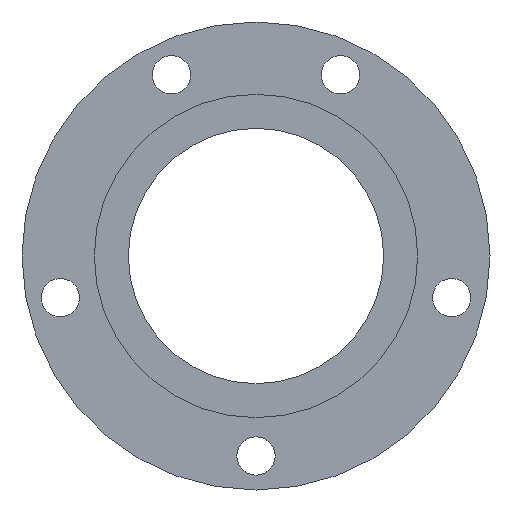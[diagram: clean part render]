
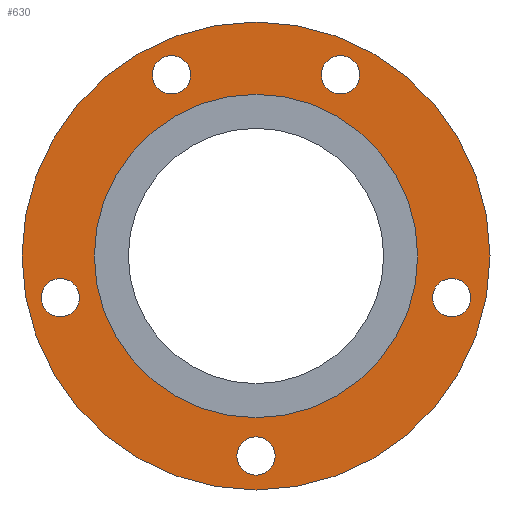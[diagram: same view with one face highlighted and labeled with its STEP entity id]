
A CAD part, left-side view. The second image highlights one B-rep face of the part: STEP entity #630.
In plain terms, the highlighted planar face has unit normal (-1, 0, 0).
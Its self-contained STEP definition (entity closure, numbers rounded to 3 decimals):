
#344=CARTESIAN_POINT('',(-14.,0.0,-55.));
#345=VERTEX_POINT('',#344);
#346=CARTESIAN_POINT('',(-14.,0.0,0.0));
#347=DIRECTION('',(1.0,0.0,0.0));
#348=DIRECTION('',(0.0,0.0,-1.0));
#349=AXIS2_PLACEMENT_3D('',#346,#347,#348);
#350=CIRCLE('',#349,55.);
#351=EDGE_CURVE('',#345,#345,#350,.T.);
#385=CARTESIAN_POINT('',(-14.,-45.973,-5.272));
#386=VERTEX_POINT('',#385);
#387=CARTESIAN_POINT('',(-14.,-45.973,-9.772));
#388=DIRECTION('',(1.0,0.0,0.0));
#389=DIRECTION('',(0.0,0.0,-1.0));
#390=AXIS2_PLACEMENT_3D('',#387,#388,#389);
#391=CIRCLE('',#390,4.5);
#392=EDGE_CURVE('',#386,#386,#391,.T.);
#426=CARTESIAN_POINT('',(-14.,0.,-42.5));
#427=VERTEX_POINT('',#426);
#428=CARTESIAN_POINT('',(-14.,0.0,-47.0));
#429=DIRECTION('',(1.0,0.0,0.0));
#430=DIRECTION('',(0.0,0.0,-1.0));
#431=AXIS2_PLACEMENT_3D('',#428,#429,#430);
#432=CIRCLE('',#431,4.5);
#433=EDGE_CURVE('',#427,#427,#432,.T.);
#467=CARTESIAN_POINT('',(-14.,45.973,-5.272));
#468=VERTEX_POINT('',#467);
#469=CARTESIAN_POINT('',(-14.,45.973,-9.772));
#470=DIRECTION('',(1.0,0.0,0.0));
#471=DIRECTION('',(0.0,0.0,-1.0));
#472=AXIS2_PLACEMENT_3D('',#469,#470,#471);
#473=CIRCLE('',#472,4.5);
#474=EDGE_CURVE('',#468,#468,#473,.T.);
#508=CARTESIAN_POINT('',(-14.,19.863,47.096));
#509=VERTEX_POINT('',#508);
#510=CARTESIAN_POINT('',(-14.,19.863,42.596));
#511=DIRECTION('',(1.0,0.0,0.0));
#512=DIRECTION('',(0.0,0.0,-1.0));
#513=AXIS2_PLACEMENT_3D('',#510,#511,#512);
#514=CIRCLE('',#513,4.5);
#515=EDGE_CURVE('',#509,#509,#514,.T.);
#549=CARTESIAN_POINT('',(-14.,-19.863,47.096));
#550=VERTEX_POINT('',#549);
#551=CARTESIAN_POINT('',(-14.,-19.863,42.596));
#552=DIRECTION('',(1.0,0.0,0.0));
#553=DIRECTION('',(0.0,0.0,-1.0));
#554=AXIS2_PLACEMENT_3D('',#551,#552,#553);
#555=CIRCLE('',#554,4.5);
#556=EDGE_CURVE('',#550,#550,#555,.T.);
#589=CARTESIAN_POINT('',(-14.,0.0,-38.0));
#590=VERTEX_POINT('',#589);
#591=CARTESIAN_POINT('',(-14.,0.0,0.0));
#592=DIRECTION('',(1.0,0.0,0.0));
#593=DIRECTION('',(0.0,0.0,-1.0));
#594=AXIS2_PLACEMENT_3D('',#591,#592,#593);
#595=CIRCLE('',#594,38.0);
#596=EDGE_CURVE('',#590,#590,#595,.T.);
#604=CARTESIAN_POINT('',(-14.,0.0,-46.5));
#605=DIRECTION('',(-1.0,0.0,0.0));
#606=DIRECTION('',(0.0,0.0,1.0));
#607=AXIS2_PLACEMENT_3D('',#604,#605,#606);
#608=PLANE('',#607);
#609=ORIENTED_EDGE('',*,*,#351,.F.);
#610=EDGE_LOOP('',(#609));
#611=FACE_OUTER_BOUND('',#610,.T.);
#612=ORIENTED_EDGE('',*,*,#392,.T.);
#613=EDGE_LOOP('',(#612));
#614=FACE_BOUND('',#613,.T.);
#615=ORIENTED_EDGE('',*,*,#433,.T.);
#616=EDGE_LOOP('',(#615));
#617=FACE_BOUND('',#616,.T.);
#618=ORIENTED_EDGE('',*,*,#474,.T.);
#619=EDGE_LOOP('',(#618));
#620=FACE_BOUND('',#619,.T.);
#621=ORIENTED_EDGE('',*,*,#515,.T.);
#622=EDGE_LOOP('',(#621));
#623=FACE_BOUND('',#622,.T.);
#624=ORIENTED_EDGE('',*,*,#556,.T.);
#625=EDGE_LOOP('',(#624));
#626=FACE_BOUND('',#625,.T.);
#627=ORIENTED_EDGE('',*,*,#596,.T.);
#628=EDGE_LOOP('',(#627));
#629=FACE_BOUND('',#628,.T.);
#630=ADVANCED_FACE('',(#611,#614,#617,#620,#623,#626,#629),#608,.T.);
